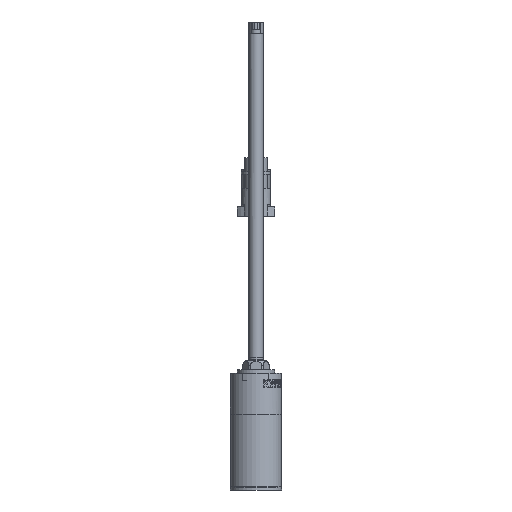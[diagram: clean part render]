
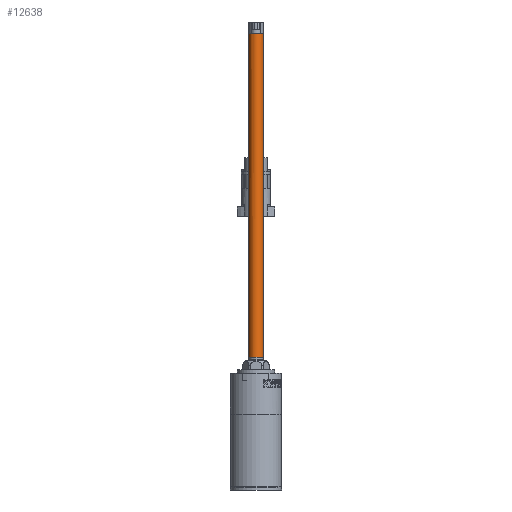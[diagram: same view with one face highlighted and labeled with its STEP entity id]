
A CAD part, left-side view. The second image highlights one B-rep face of the part: STEP entity #12638.
In plain terms, the highlighted cylindrical face has radius 3 mm (diameter 6 mm), a full revolution.
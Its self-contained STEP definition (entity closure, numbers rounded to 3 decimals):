
#12638=ADVANCED_FACE('',(#17310,#17311),#14483,.T.);
#14483=CYLINDRICAL_SURFACE('',#39978,3.);
#15363=B_SPLINE_CURVE_WITH_KNOTS('',3,(#59104,#59105,#59106,#59107,#59108,
#59109,#59110,#59111,#59112,#59113,#59114,#59115,#59116,#59117,#59118,#59119,
#59120,#59121),.UNSPECIFIED.,.T.,.F.,(2,2,2,2,2,2,2,2,2,2,2),(-0.125,0.,
0.125,0.25,0.375,0.5,0.625,0.75,0.875,1.,1.125),.UNSPECIFIED.);
#17310=FACE_BOUND('',#19048,.T.);
#17311=FACE_BOUND('',#19049,.T.);
#19048=EDGE_LOOP('',(#22967));
#19049=EDGE_LOOP('',(#22968));
#22967=ORIENTED_EDGE('',*,*,#34568,.T.);
#22968=ORIENTED_EDGE('',*,*,#34569,.T.);
#31104=VERTEX_POINT('',#59122);
#31105=VERTEX_POINT('',#59124);
#34568=EDGE_CURVE('',#31104,#31104,#15363,.T.);
#34569=EDGE_CURVE('',#31105,#31105,#38485,.T.);
#38485=CIRCLE('',#39977,3.);
#39977=AXIS2_PLACEMENT_3D('',#59123,#43502,#43503);
#39978=AXIS2_PLACEMENT_3D('',#59125,#43504,#43505);
#43502=DIRECTION('',(0.,0.,-1.));
#43503=DIRECTION('',(-1.,0.,0.));
#43504=DIRECTION('',(0.,0.,-1.));
#43505=DIRECTION('',(-1.,0.,0.));
#59104=CARTESIAN_POINT('',(-203.,0.786,56.8));
#59105=CARTESIAN_POINT('',(-203.,-0.785,56.8));
#59106=CARTESIAN_POINT('',(-202.677,-1.566,56.8));
#59107=CARTESIAN_POINT('',(-201.566,-2.676,56.8));
#59108=CARTESIAN_POINT('',(-200.786,-3.,56.8));
#59109=CARTESIAN_POINT('',(-199.215,-3.,56.8));
#59110=CARTESIAN_POINT('',(-198.434,-2.677,56.8));
#59111=CARTESIAN_POINT('',(-197.324,-1.566,56.8));
#59112=CARTESIAN_POINT('',(-197.,-0.786,56.8));
#59113=CARTESIAN_POINT('',(-197.,0.785,56.8));
#59114=CARTESIAN_POINT('',(-197.323,1.566,56.8));
#59115=CARTESIAN_POINT('',(-198.434,2.676,56.8));
#59116=CARTESIAN_POINT('',(-199.214,3.,56.8));
#59117=CARTESIAN_POINT('',(-200.785,3.,56.8));
#59118=CARTESIAN_POINT('',(-201.566,2.677,56.8));
#59119=CARTESIAN_POINT('',(-202.676,1.566,56.8));
#59120=CARTESIAN_POINT('',(-203.,0.786,56.8));
#59121=CARTESIAN_POINT('',(-203.,-0.785,56.8));
#59122=CARTESIAN_POINT('',(-203.,0.,56.8));
#59123=CARTESIAN_POINT('',(-200.,0.,194.9));
#59124=CARTESIAN_POINT('',(-203.,0.,194.9));
#59125=CARTESIAN_POINT('',(-200.,0.,49.9));
